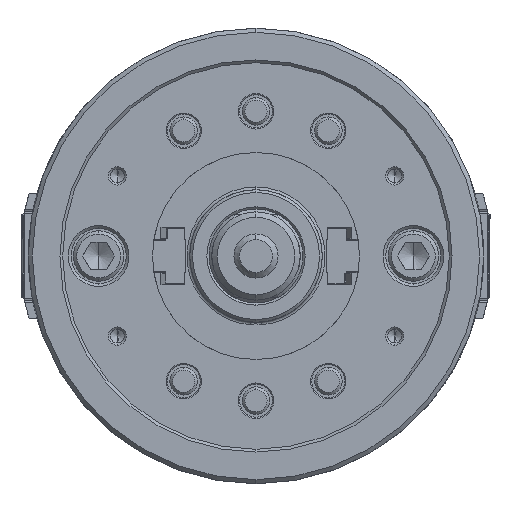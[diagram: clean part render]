
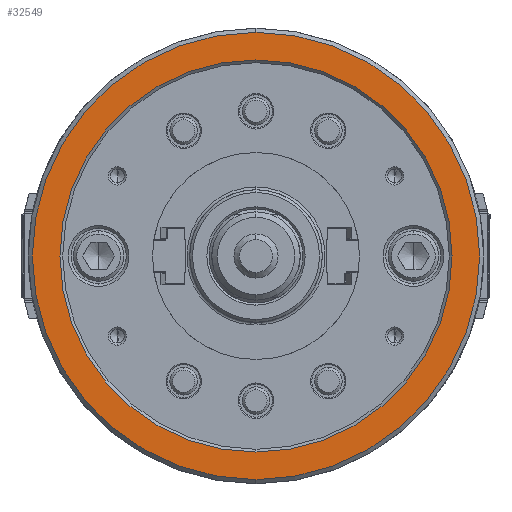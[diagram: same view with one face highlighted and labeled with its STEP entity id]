
A CAD part, left-side view. The second image highlights one B-rep face of the part: STEP entity #32549.
In plain terms, the highlighted planar face has unit normal (-1, 0, 0).
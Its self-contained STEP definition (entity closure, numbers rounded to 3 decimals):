
#1862 = CARTESIAN_POINT ( 'NONE',  ( -74., 0., 0. ) ) ;
#10003 = CARTESIAN_POINT ( 'NONE',  ( -74., 0., 0. ) ) ;
#18218 = VERTEX_POINT ( 'NONE', #69605 ) ;
#18775 = EDGE_CURVE ( 'NONE', #74326, #42671, #24960, .T. ) ;
#20638 = DIRECTION ( 'NONE',  ( 0., 0., -1. ) ) ;
#21001 = EDGE_LOOP ( 'NONE', ( #75740, #77163 ) ) ;
#23199 = DIRECTION ( 'NONE',  ( 1., 0., 0. ) ) ;
#23420 = CARTESIAN_POINT ( 'NONE',  ( -74., 0., -71. ) ) ;
#24762 = CARTESIAN_POINT ( 'NONE',  ( -74., 0., 0. ) ) ;
#24960 = CIRCLE ( 'NONE', #37094, 81. ) ;
#26240 = CIRCLE ( 'NONE', #50452, 71. ) ;
#26444 = DIRECTION ( 'NONE',  ( 0., 0., -1. ) ) ;
#28803 = PLANE ( 'NONE',  #72119 ) ;
#29173 = EDGE_CURVE ( 'NONE', #42671, #74326, #36811, .T. ) ;
#31440 = AXIS2_PLACEMENT_3D ( 'NONE', #24762, #76138, #26444 ) ;
#32549 = ADVANCED_FACE ( 'NONE', ( #78476, #35126 ), #28803, .F. ) ;
#33588 = AXIS2_PLACEMENT_3D ( 'NONE', #1862, #23199, #55600 ) ;
#35126 = FACE_BOUND ( 'NONE', #52776, .T. ) ;
#35406 = ORIENTED_EDGE ( 'NONE', *, *, #52012, .T. ) ;
#36811 = CIRCLE ( 'NONE', #31440, 81. ) ;
#37094 = AXIS2_PLACEMENT_3D ( 'NONE', #71574, #66076, #20638 ) ;
#37661 = CARTESIAN_POINT ( 'NONE',  ( -74., 0., -81. ) ) ;
#40649 = CARTESIAN_POINT ( 'NONE',  ( -74., -81., 0. ) ) ;
#42671 = VERTEX_POINT ( 'NONE', #65384 ) ;
#48321 = DIRECTION ( 'NONE',  ( 0., 0., -1. ) ) ;
#50452 = AXIS2_PLACEMENT_3D ( 'NONE', #10003, #80696, #48321 ) ;
#52012 = EDGE_CURVE ( 'NONE', #18218, #71720, #80612, .T. ) ;
#52776 = EDGE_LOOP ( 'NONE', ( #35406, #74667 ) ) ;
#53639 = DIRECTION ( 'NONE',  ( 1., 0., 0. ) ) ;
#55600 = DIRECTION ( 'NONE',  ( 0., 0., -1. ) ) ;
#65384 = CARTESIAN_POINT ( 'NONE',  ( -74., 0., 81. ) ) ;
#65843 = DIRECTION ( 'NONE',  ( 0., 0., -1. ) ) ;
#66076 = DIRECTION ( 'NONE',  ( 1., 0., 0. ) ) ;
#69605 = CARTESIAN_POINT ( 'NONE',  ( -74., 0., 71. ) ) ;
#70511 = EDGE_CURVE ( 'NONE', #71720, #18218, #26240, .T. ) ;
#71574 = CARTESIAN_POINT ( 'NONE',  ( -74., 0., 0. ) ) ;
#71720 = VERTEX_POINT ( 'NONE', #23420 ) ;
#72119 = AXIS2_PLACEMENT_3D ( 'NONE', #40649, #53639, #65843 ) ;
#74326 = VERTEX_POINT ( 'NONE', #37661 ) ;
#74667 = ORIENTED_EDGE ( 'NONE', *, *, #70511, .T. ) ;
#75740 = ORIENTED_EDGE ( 'NONE', *, *, #18775, .F. ) ;
#76138 = DIRECTION ( 'NONE',  ( 1., 0., 0. ) ) ;
#77163 = ORIENTED_EDGE ( 'NONE', *, *, #29173, .F. ) ;
#78476 = FACE_OUTER_BOUND ( 'NONE', #21001, .T. ) ;
#80612 = CIRCLE ( 'NONE', #33588, 71. ) ;
#80696 = DIRECTION ( 'NONE',  ( 1., 0., 0. ) ) ;
